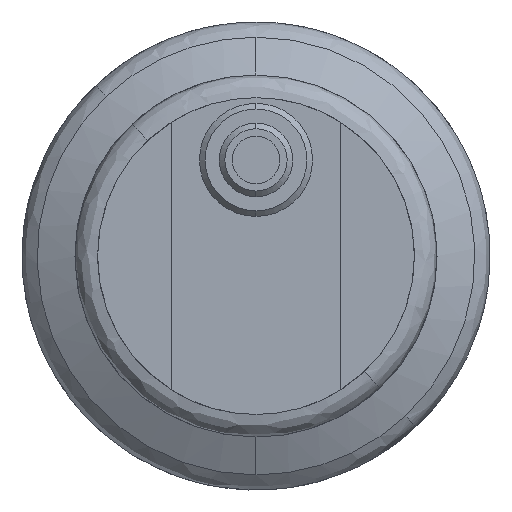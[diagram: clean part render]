
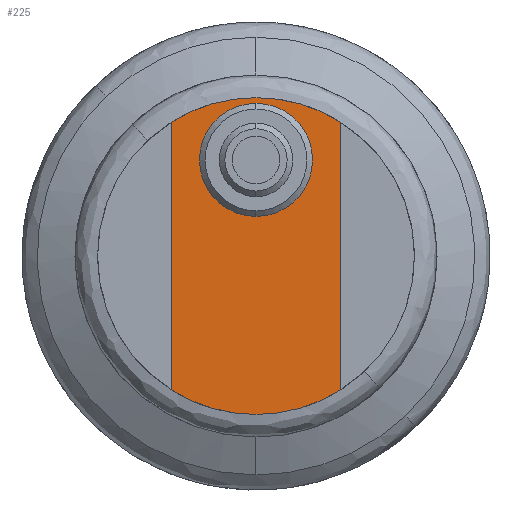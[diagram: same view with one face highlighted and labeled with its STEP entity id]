
A CAD part, left-side view. The second image highlights one B-rep face of the part: STEP entity #225.
In plain terms, the highlighted planar face has unit normal (-1, 0, 0).
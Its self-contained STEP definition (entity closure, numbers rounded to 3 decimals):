
#225=ADVANCED_FACE('',(#442,#443),#444,.T.);
#442=FACE_OUTER_BOUND('',#1475,.T.);
#443=FACE_BOUND('',#1476,.T.);
#444=PLANE('',#1477);
#1475=EDGE_LOOP('',(#2248,#2249,#2250,#2251,#2252,#2253));
#1476=EDGE_LOOP('',(#2254,#2255));
#1477=AXIS2_PLACEMENT_3D('',#2256,#2257,#2258);
#2248=ORIENTED_EDGE('',*,*,#2538,.T.);
#2249=ORIENTED_EDGE('',*,*,#2534,.T.);
#2250=ORIENTED_EDGE('',*,*,#2327,.T.);
#2251=ORIENTED_EDGE('',*,*,#2527,.T.);
#2252=ORIENTED_EDGE('',*,*,#2332,.T.);
#2253=ORIENTED_EDGE('',*,*,#2537,.T.);
#2254=ORIENTED_EDGE('',*,*,#2526,.T.);
#2255=ORIENTED_EDGE('',*,*,#2344,.T.);
#2256=CARTESIAN_POINT('',(0.0,7.0,0.0));
#2257=DIRECTION('',(-1.0,0.0,0.0));
#2258=DIRECTION('',(0.0,0.0,1.0));
#2327=EDGE_CURVE('',#2652,#2653,#2654,.T.);
#2332=EDGE_CURVE('',#2663,#2661,#2664,.T.);
#2344=EDGE_CURVE('',#2686,#2687,#2688,.T.);
#2526=EDGE_CURVE('',#2687,#2686,#2986,.T.);
#2527=EDGE_CURVE('',#2653,#2663,#2987,.T.);
#2534=EDGE_CURVE('',#2996,#2652,#2997,.T.);
#2537=EDGE_CURVE('',#2661,#2999,#3001,.T.);
#2538=EDGE_CURVE('',#2999,#2996,#3002,.T.);
#2652=VERTEX_POINT('',#3107);
#2653=VERTEX_POINT('',#3108);
#2654=CIRCLE('',#3109,14.0);
#2661=VERTEX_POINT('',#3117);
#2663=VERTEX_POINT('',#3120);
#2664=CIRCLE('',#3121,14.0);
#2686=VERTEX_POINT('',#3149);
#2687=VERTEX_POINT('',#3150);
#2688=CIRCLE('',#3151,2.65);
#2986=CIRCLE('',#3900,2.65);
#2987=LINE('',#3901,#3902);
#2996=VERTEX_POINT('',#3912);
#2997=CIRCLE('',#3913,14.0);
#2999=VERTEX_POINT('',#3916);
#3001=CIRCLE('',#3919,14.0);
#3002=LINE('',#3920,#3921);
#3107=CARTESIAN_POINT('',(0.0,0.,14.0));
#3108=CARTESIAN_POINT('',(0.0,7.5,11.822));
#3109=AXIS2_PLACEMENT_3D('',#4044,#4045,#4046);
#3117=CARTESIAN_POINT('',(0.0,0.0,-14.0));
#3120=CARTESIAN_POINT('',(0.0,7.5,-11.822));
#3121=AXIS2_PLACEMENT_3D('',#4055,#4056,#4057);
#3149=CARTESIAN_POINT('',(0.,2.65,8.5));
#3150=CARTESIAN_POINT('',(0.,-2.65,8.5));
#3151=AXIS2_PLACEMENT_3D('',#4079,#4080,#4081);
#3900=AXIS2_PLACEMENT_3D('',#4456,#4457,#4458);
#3901=CARTESIAN_POINT('',(0.0,7.5,0.0));
#3902=VECTOR('',#4459,1000.0);
#3912=CARTESIAN_POINT('',(0.0,-7.5,11.822));
#3913=AXIS2_PLACEMENT_3D('',#4476,#4477,#4478);
#3916=CARTESIAN_POINT('',(0.0,-7.5,-11.822));
#3919=AXIS2_PLACEMENT_3D('',#4481,#4482,#4483);
#3920=CARTESIAN_POINT('',(0.0,-7.5,0.0));
#3921=VECTOR('',#4484,1000.0);
#4044=CARTESIAN_POINT('',(0.0,0.0,0.0));
#4045=DIRECTION('',(-1.0,0.0,0.0));
#4046=DIRECTION('',(0.0,0.0,-1.0));
#4055=CARTESIAN_POINT('',(0.0,0.0,0.0));
#4056=DIRECTION('',(-1.0,0.0,0.0));
#4057=DIRECTION('',(0.0,0.0,-1.0));
#4079=CARTESIAN_POINT('',(0.,0.,8.5));
#4080=DIRECTION('',(1.0,0.,0.));
#4081=DIRECTION('',(0.,-1.0,0.0));
#4456=CARTESIAN_POINT('',(0.,0.,8.5));
#4457=DIRECTION('',(1.0,0.,0.));
#4458=DIRECTION('',(0.,-1.0,0.0));
#4459=DIRECTION('',(0.0,0.0,-1.0));
#4476=CARTESIAN_POINT('',(0.0,0.0,0.0));
#4477=DIRECTION('',(-1.0,0.0,0.0));
#4478=DIRECTION('',(0.0,0.,-1.0));
#4481=CARTESIAN_POINT('',(0.0,0.0,0.0));
#4482=DIRECTION('',(-1.0,0.0,0.0));
#4483=DIRECTION('',(0.0,0.0,-1.0));
#4484=DIRECTION('',(0.0,0.0,1.0));
